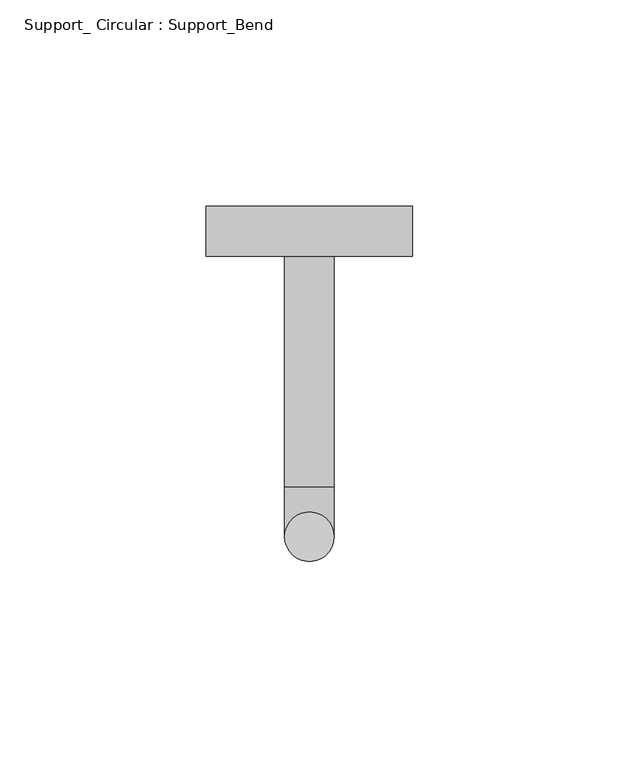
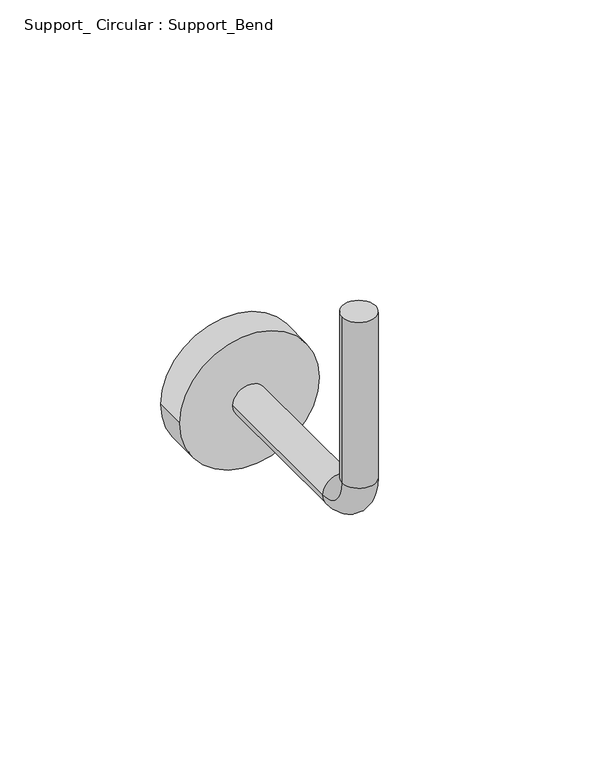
"""IFC4 building model written with IfcOpenShell, lengths in millimetres: proxy geometry, Support_ Circular : Support_Bend."""

from ifc_helpers import new_model, si_unit, point, frame, frame_2d, origin, origin_with_axes, place, context, project, spatial, circle_curve, ellipse_curve, trimmed, segment, composite_curve, outline, extrude, source, transform, mapped, element, save
from ifc_brep_helpers import plane_surface, cylinder_surface, revolved_surface, advanced_brep


def support_circular_support_bend_943144f1(model_context):
    return source(origin(), model_context, "Body", "SolidModel", [
        advanced_brep(
        [(-6.0, 0.0, 0.0), (6.0, 0.0, 0.0), (-6.0, 0.0, -63.0), (6.0, 0.0, -63.0), (6.0, 12.0, -75.0), (-6.0, 12.0, -75.0), (-6.0, 68.0, -75.0), (6.0, 68.0, -75.0)],
        [
            (0, 1, circle_curve(origin_with_axes(), 6.0)),
            (1, 0, circle_curve(origin_with_axes(), 6.0)),
            (0, 2),
            (2, 3, circle_curve(frame((0.0, 0.0, -63.0), z_axis=(0.0, 0.0, 1.0), x_axis=(1.0, 0.0, 0.0)), 6.0)),
            (3, 1),
            (3, 2, circle_curve(frame((0.0, 0.0, -63.0), z_axis=(0.0, 0.0, 1.0), x_axis=(1.0, 0.0, 0.0)), 6.0)),
            (4, 3, circle_curve(frame((6.0, 12.0, -63.0), z_axis=(-1.0, 0.0, 0.0), x_axis=(0.0, -1.0, 0.0)), 12.0)),
            (2, 5, circle_curve(frame((-6.0, 12.0, -63.0), z_axis=(1.0, 0.0, 0.0), x_axis=(0.0, -1.0, 0.0)), 12.0)),
            (5, 4, circle_curve(frame((0.0, 12.0, -75.0), z_axis=(0.0, -1.0, 0.0), x_axis=(1.0, 0.0, 0.0)), 6.0)),
            (4, 5, circle_curve(frame((0.0, 12.0, -75.0), z_axis=(0.0, -1.0, 0.0), x_axis=(1.0, 0.0, 0.0)), 6.0)),
            (6, 7, circle_curve(frame((0.0, 68.0, -75.0), z_axis=(0.0, 1.0, 0.0), x_axis=(1.0, 0.0, 0.0)), 6.0)),
            (7, 6, circle_curve(frame((0.0, 68.0, -75.0), z_axis=(0.0, 1.0, 0.0), x_axis=(1.0, 0.0, 0.0)), 6.0)),
            (5, 6),
            (7, 4),
        ],
        [
            plane_surface(origin_with_axes()),
            cylinder_surface(origin_with_axes(), 6.0),
            revolved_surface(trimmed(ellipse_curve(frame((0.0, 0.0, -63.0), z_axis=(0.0, 0.0, 1.0), x_axis=(1.0, 0.0, 0.0)), 6.0, 6.0), [point((-6.0, 0.0, -63.0))], [point((6.0, 0.0, -63.0))], True, "CARTESIAN"), (0.0, 12.0, -63.0), (1.0, 0.0, 0.0)),
            revolved_surface(trimmed(ellipse_curve(frame((0.0, 0.0, -63.0), z_axis=(0.0, 0.0, 1.0), x_axis=(1.0, 0.0, 0.0)), 6.0, 6.0), [point((6.0, 0.0, -63.0))], [point((-6.0, 0.0, -63.0))], True, "CARTESIAN"), (0.0, 12.0, -63.0), (1.0, 0.0, 0.0)),
            plane_surface(frame((0.0, 68.0, -75.0), z_axis=(0.0, 1.0, 0.0), x_axis=(1.0, 0.0, 0.0))),
            cylinder_surface(frame((0.0, 12.0, -75.0), z_axis=(0.0, -1.0, 0.0), x_axis=(1.0, 0.0, 0.0)), 6.0),
        ],
        [
            (0, [[1, 2]]),
            (1, [[-1, 3, 4, 5]]),
            (1, [[-2, -5, 6, -3]]),
            (2, [[7, -4, 8, 9]]),
            (3, [[-8, -6, -7, 10]]),
            (4, [[11, 12]]),
            (5, [[-9, 13, -12, 14]]),
            (5, [[-10, -14, -11, -13]]),
        ],
    ),
        extrude(outline(composite_curve([segment(trimmed(circle_curve(frame_2d((-75.0, 0.0)), 25.0), [point((-75.0, -25.0))], [point((-75.0, 25.0))], False, "CARTESIAN"), True, "CONTINUOUS"), segment(trimmed(circle_curve(frame_2d((-75.0, 0.0)), 25.0), [point((-75.0, 25.0))], [point((-75.0, -25.0))], False, "CARTESIAN"), True, "CONTINUOUS")], self_intersect=False)), frame((0.0, 68.0, 0.0), z_axis=(0.0, 1.0, 0.0), x_axis=(0.0, 0.0, 1.0)), (0.0, 0.0, 1.0), 12.0),
    ])


if __name__ == "__main__":
    model = new_model("IFC4")
    model_context = context("Model", 3, world=origin())
    ifc_project = project(units=[si_unit("LENGTHUNIT", "METRE", prefix="MILLI")], contexts=[model_context])
    site = spatial("IfcSite", under=ifc_project)
    building = spatial("IfcBuilding", under=site)
    placement = place(None, origin())
    support_circular_support_bend_shape = support_circular_support_bend_943144f1(model_context)
    element("IfcBuildingElementProxy", 1, Name="Support_ Circular : Support_Bend", ObjectType="Support_ Circular : Support_Bend", at=placement, inside=building, context=model_context, shape_type="MappedRepresentation", body=[
        mapped(support_circular_support_bend_shape, transform((0.0, 0.0, 0.0), x_axis=(1.0, 0.0, 0.0), y_axis=(0.0, 1.0, 0.0), z_axis=(0.0, 0.0, 1.0))),
    ])
    save(model, "model.ifc")
